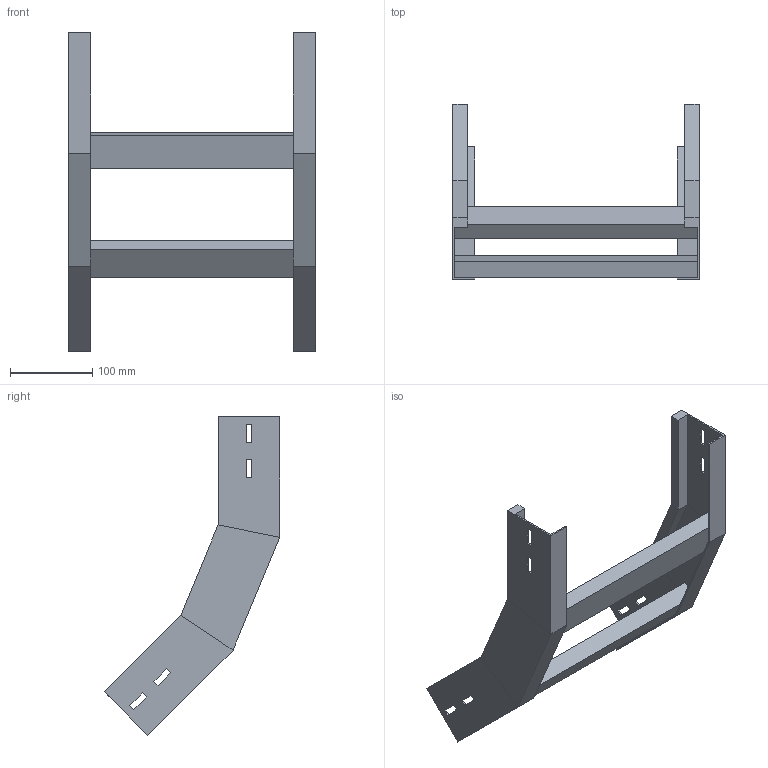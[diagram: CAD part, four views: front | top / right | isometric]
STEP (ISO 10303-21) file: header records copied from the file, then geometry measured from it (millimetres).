
FILE_DESCRIPTION (( 'STEP AP214' ), '1' );
FILE_NAME ('A2X31B3C300XX.step', '2025-03-20T10:08:55', ( '' ), ( '' ), 'SwSTEP 2.0', 'SolidWorks 2023', '' );
FILE_SCHEMA (( 'AUTOMOTIVE_DESIGN' ));
Length unit declared in the file: millimetre
Products named in the file (3): TRAVERSINO_300; LONGH.SALITA_45°_H75_R300; A2X31B3C300XX
Assembly tree (4 placements, depth 2):
  A2X31B3C300XX
    LONGH.SALITA_45°_H75_R300  x2
    TRAVERSINO_300  x2
Bounding box: 300 x 213.56 x 387.55 mm (x, y, z)
Volume: 793315.1 mm3; surface area: 270650.7 mm2
Topology: 4 solids, 4 shells, 96 faces, 232 edges, 144 vertices
Faces by surface type: plane 96
Entity records: 1472 total; most frequent: CARTESIAN_POINT 243, ORIENTED_EDGE 232, DIRECTION 226, EDGE_CURVE 116, LINE 116, VECTOR 116, VERTEX_POINT 72, EDGE_LOOP 56
